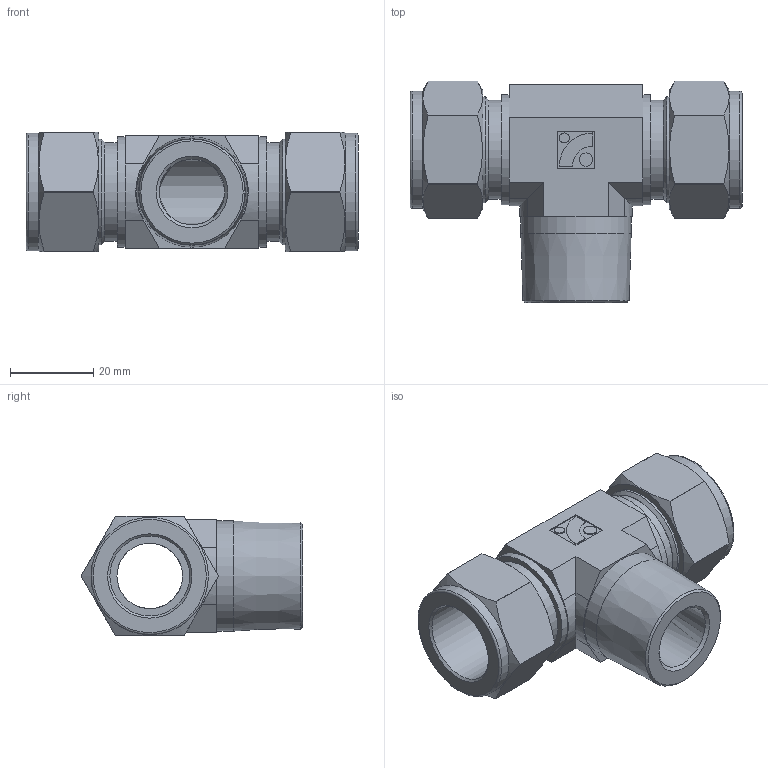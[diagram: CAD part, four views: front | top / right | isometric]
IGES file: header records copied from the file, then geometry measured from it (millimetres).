
Global section: file name: No Iges File Name specified; native system: Autodesk Inventor 2012; preprocessor: AutoDesk Inventor Iges Exporter R2012; author: 硅己绕,,1; organization: 1; date: 20150815.155236; units: millimetre
Bounding box: 79.79 x 53.3 x 28.6 mm (x, y, z)
Volume: 38054.8 mm3; surface area: 16687.5 mm2
Topology: 1 solids, 1 shells, 94 faces, 220 edges, 142 vertices
Faces by surface type: plane 48, cylinder 28, cone 8, revolution 8, torus 2
Full cylindrical faces by diameter (mm): 2.407 x1, 3.21 x1, 23.7 x2, 25.4 x2, 26.5 x3, 28.2 x2
